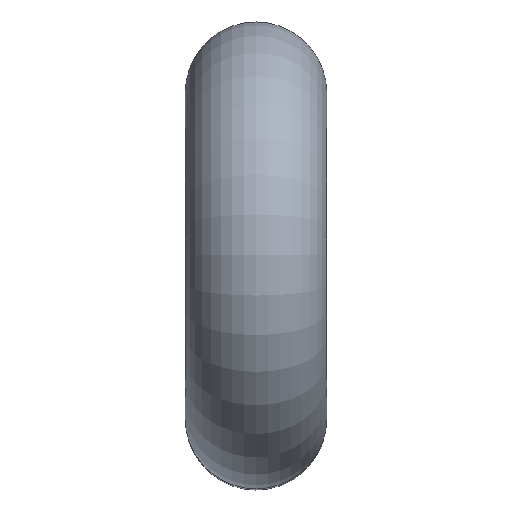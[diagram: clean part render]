
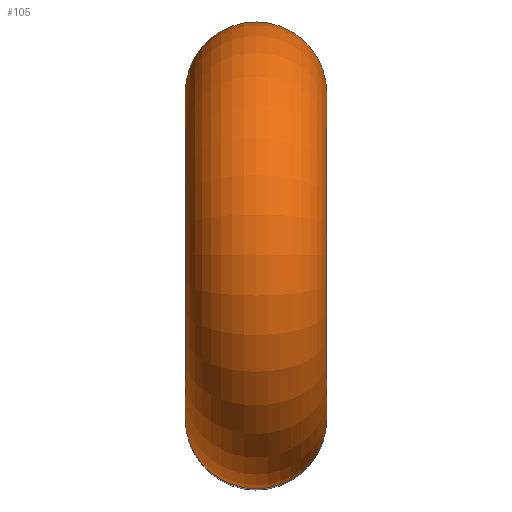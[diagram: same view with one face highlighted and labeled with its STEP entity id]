
A CAD part, top view. The second image highlights one B-rep face of the part: STEP entity #105.
In plain terms, the highlighted toroidal (fillet/blend) face has major radius 9.2 mm and minor radius 4 mm.
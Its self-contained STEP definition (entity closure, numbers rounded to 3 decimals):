
#24 = VERTEX_POINT('',#25);
#25 = CARTESIAN_POINT('',(2.307,-5.2,677.84));
#32 = CYLINDRICAL_SURFACE('',#33,4.);
#33 = AXIS2_PLACEMENT_3D('',#34,#35,#36);
#34 = CARTESIAN_POINT('',(2.307,-9.2,640.16));
#35 = DIRECTION('',(0.,0.,1.));
#36 = DIRECTION('',(0.,1.,0.));
#51 = EDGE_CURVE('',#24,#24,#52,.T.);
#52 = SURFACE_CURVE('',#53,(#58,#65),.PCURVE_S1.);
#53 = CIRCLE('',#54,4.);
#54 = AXIS2_PLACEMENT_3D('',#55,#56,#57);
#55 = CARTESIAN_POINT('',(2.307,-9.2,677.84));
#56 = DIRECTION('',(0.,-0.,1.));
#57 = DIRECTION('',(0.,1.,0.));
#58 = PCURVE('',#32,#59);
#59 = DEFINITIONAL_REPRESENTATION('',(#60),#64);
#60 = LINE('',#61,#62);
#61 = CARTESIAN_POINT('',(0.,37.68));
#62 = VECTOR('',#63,1.);
#63 = DIRECTION('',(1.,0.));
#64 = ( GEOMETRIC_REPRESENTATION_CONTEXT(2) 
PARAMETRIC_REPRESENTATION_CONTEXT() REPRESENTATION_CONTEXT('2D SPACE',''
  ) );
#65 = PCURVE('',#66,#71);
#66 = TOROIDAL_SURFACE('',#67,9.2,4.);
#67 = AXIS2_PLACEMENT_3D('',#68,#69,#70);
#68 = CARTESIAN_POINT('',(2.307,0.,677.84));
#69 = DIRECTION('',(-1.,0.,0.));
#70 = DIRECTION('',(0.,-1.,0.));
#71 = DEFINITIONAL_REPRESENTATION('',(#72),#76);
#72 = LINE('',#73,#74);
#73 = CARTESIAN_POINT('',(0.,9.425));
#74 = VECTOR('',#75,1.);
#75 = DIRECTION('',(-0.,-1.));
#76 = ( GEOMETRIC_REPRESENTATION_CONTEXT(2) 
PARAMETRIC_REPRESENTATION_CONTEXT() REPRESENTATION_CONTEXT('2D SPACE',''
  ) );
#105 = ADVANCED_FACE('',(#106),#66,.T.);
#106 = FACE_BOUND('',#107,.T.);
#107 = EDGE_LOOP('',(#108,#132,#159,#160));
#108 = ORIENTED_EDGE('',*,*,#109,.T.);
#109 = EDGE_CURVE('',#24,#110,#112,.T.);
#110 = VERTEX_POINT('',#111);
#111 = CARTESIAN_POINT('',(2.307,5.2,677.84));
#112 = SEAM_CURVE('',#113,(#118,#125),.PCURVE_S1.);
#113 = CIRCLE('',#114,5.2);
#114 = AXIS2_PLACEMENT_3D('',#115,#116,#117);
#115 = CARTESIAN_POINT('',(2.307,0.,677.84));
#116 = DIRECTION('',(-1.,0.,0.));
#117 = DIRECTION('',(0.,-1.,0.));
#118 = PCURVE('',#66,#119);
#119 = DEFINITIONAL_REPRESENTATION('',(#120),#124);
#120 = LINE('',#121,#122);
#121 = CARTESIAN_POINT('',(0.,3.142));
#122 = VECTOR('',#123,1.);
#123 = DIRECTION('',(1.,0.));
#124 = ( GEOMETRIC_REPRESENTATION_CONTEXT(2) 
PARAMETRIC_REPRESENTATION_CONTEXT() REPRESENTATION_CONTEXT('2D SPACE',''
  ) );
#125 = PCURVE('',#66,#126);
#126 = DEFINITIONAL_REPRESENTATION('',(#127),#131);
#127 = LINE('',#128,#129);
#128 = CARTESIAN_POINT('',(0.,9.425));
#129 = VECTOR('',#130,1.);
#130 = DIRECTION('',(1.,0.));
#131 = ( GEOMETRIC_REPRESENTATION_CONTEXT(2) 
PARAMETRIC_REPRESENTATION_CONTEXT() REPRESENTATION_CONTEXT('2D SPACE',''
  ) );
#132 = ORIENTED_EDGE('',*,*,#133,.T.);
#133 = EDGE_CURVE('',#110,#110,#134,.T.);
#134 = SURFACE_CURVE('',#135,(#140,#147),.PCURVE_S1.);
#135 = CIRCLE('',#136,4.);
#136 = AXIS2_PLACEMENT_3D('',#137,#138,#139);
#137 = CARTESIAN_POINT('',(2.307,9.2,677.84));
#138 = DIRECTION('',(0.,0.,1.));
#139 = DIRECTION('',(0.,1.,0.));
#140 = PCURVE('',#66,#141);
#141 = DEFINITIONAL_REPRESENTATION('',(#142),#146);
#142 = LINE('',#143,#144);
#143 = CARTESIAN_POINT('',(3.142,0.));
#144 = VECTOR('',#145,1.);
#145 = DIRECTION('',(0.,1.));
#146 = ( GEOMETRIC_REPRESENTATION_CONTEXT(2) 
PARAMETRIC_REPRESENTATION_CONTEXT() REPRESENTATION_CONTEXT('2D SPACE',''
  ) );
#147 = PCURVE('',#148,#153);
#148 = CYLINDRICAL_SURFACE('',#149,4.);
#149 = AXIS2_PLACEMENT_3D('',#150,#151,#152);
#150 = CARTESIAN_POINT('',(2.307,9.2,677.84));
#151 = DIRECTION('',(0.,0.,-1.));
#152 = DIRECTION('',(0.,-1.,0.));
#153 = DEFINITIONAL_REPRESENTATION('',(#154),#158);
#154 = LINE('',#155,#156);
#155 = CARTESIAN_POINT('',(9.425,0.));
#156 = VECTOR('',#157,1.);
#157 = DIRECTION('',(-1.,-0.));
#158 = ( GEOMETRIC_REPRESENTATION_CONTEXT(2) 
PARAMETRIC_REPRESENTATION_CONTEXT() REPRESENTATION_CONTEXT('2D SPACE',''
  ) );
#159 = ORIENTED_EDGE('',*,*,#109,.F.);
#160 = ORIENTED_EDGE('',*,*,#51,.T.);
